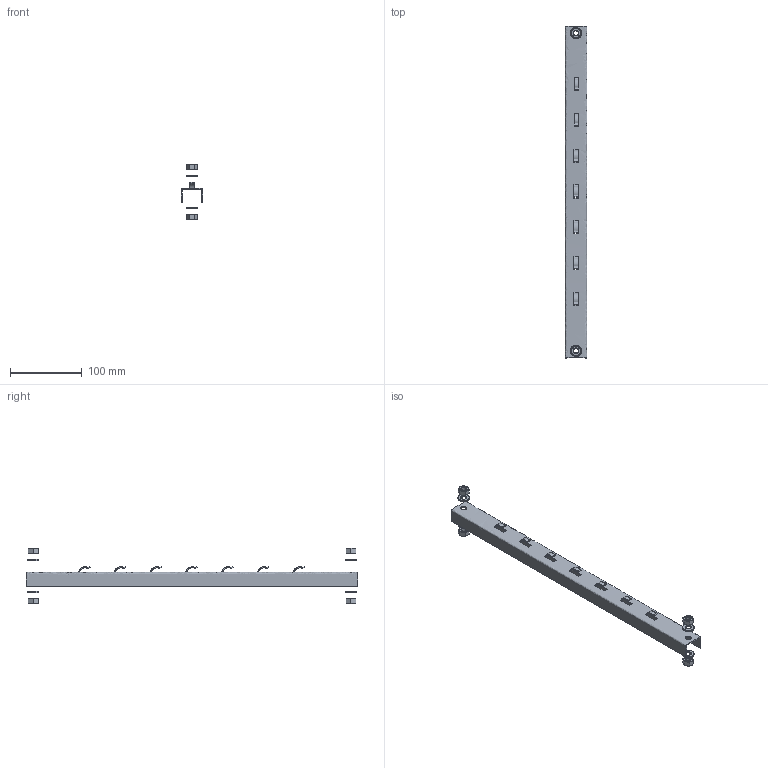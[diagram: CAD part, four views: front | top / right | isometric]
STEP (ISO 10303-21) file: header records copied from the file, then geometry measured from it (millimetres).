
FILE_DESCRIPTION(/* description */ (''),/* implementation_level */ '2;1');
FILE_NAME(/* name */ 'PZM400',/* time_stamp */ '2012-11-29T22:32:08+01:00',/* author */ (''),/* organization */ (''),/* preprocessor_version */ 'ST-DEVELOPER v10',/* originating_system */ '',/* authorisation */ '');
FILE_SCHEMA (('AUTOMOTIVE_DESIGN_CC2'));
Length unit declared in the file: millimetre
Products named in the file (1): 1
Bounding box: 30 x 464 x 77.13 mm (x, y, z)
Surface area: 68493.8 mm2 (no closed solid volume)
Topology: 0 solids, 196 shells, 226 faces, 1022 edges, 966 vertices
Faces by surface type: bspline 162, plane 64
Entity records: 17109 total; most frequent: CARTESIAN_POINT 10624, ORIENTED_EDGE 1078, EDGE_CURVE 1018, VERTEX_POINT 958, B_SPLINE_CURVE_WITH_KNOTS 453, EDGE_LOOP 260, ADVANCED_FACE 226, FACE_OUTER_BOUND 226
